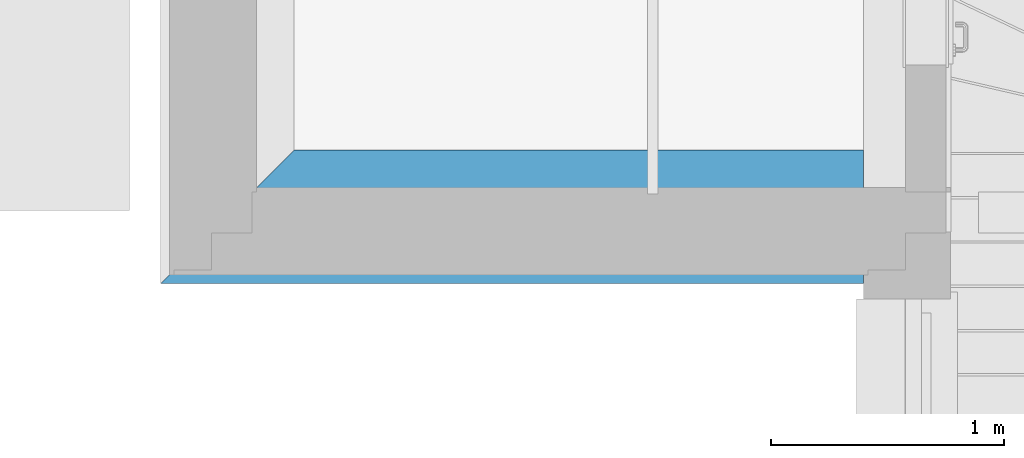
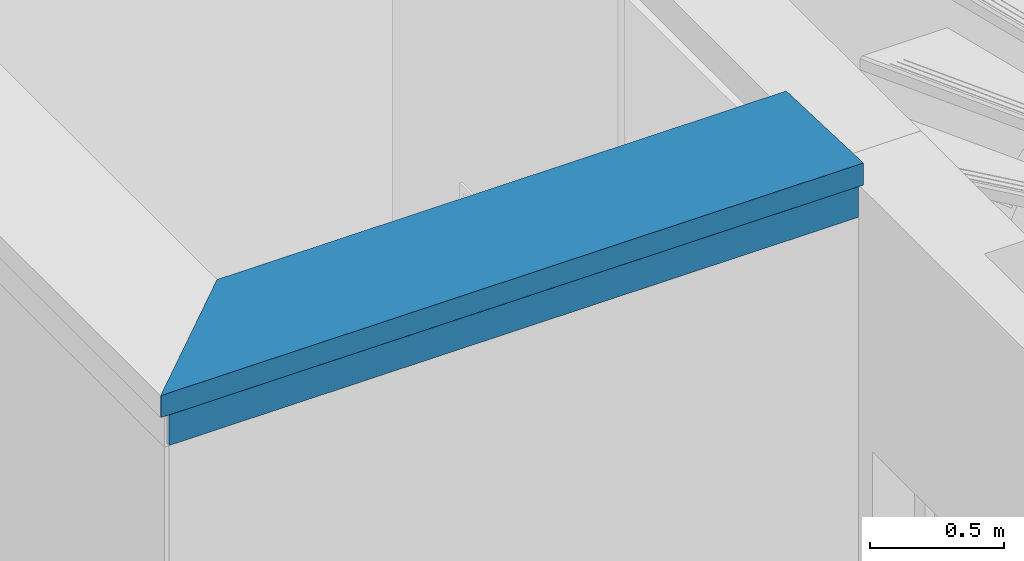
# One storey, part 2 of 28: 1 beam.
"""IFC4 building model written with IfcOpenShell, lengths in metres."""

from ifc_helpers import new_model, entity, si_unit, converted_unit, derived_unit, direction, frame, origin_with_axes, place, context, subcontext, project, spatial, triangles, material, constituent, constituent_set, type_object, element, save


model = new_model("IFC4")

# Units and contexts
model_context = context("Model", 3, precision=1e-05, world=origin_with_axes(), true_north=direction((-0.526213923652, 0.850352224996)))
body_context = subcontext(model_context, "Body", "Model", "MODEL_VIEW")
ifc_project = project(units=[si_unit("LENGTHUNIT", "METRE"), si_unit("AREAUNIT", "SQUARE_METRE"), si_unit("VOLUMEUNIT", "CUBIC_METRE"), converted_unit("PLANEANGLEUNIT", "DEGREE", entity("IfcPlaneAngleMeasure", 0.0174532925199), si_unit("PLANEANGLEUNIT", "RADIAN"), dimensions=[0, 0, 0, 0, 0, 0, 0]), si_unit("SOLIDANGLEUNIT", "STERADIAN"), converted_unit("TIMEUNIT", "Year", entity("IfcTimeMeasure", 31556926.0), si_unit("TIMEUNIT", "SECOND"), dimensions=[0, 0, 1, 0, 0, 0, 0]), si_unit("MASSUNIT", "GRAM", prefix="KILO"), si_unit("THERMODYNAMICTEMPERATUREUNIT", "DEGREE_CELSIUS"), si_unit("LUMINOUSINTENSITYUNIT", "LUMEN"), si_unit("ENERGYUNIT", "JOULE", prefix="MEGA"), derived_unit("THERMALCONDUCTANCEUNIT", [(si_unit("POWERUNIT", "WATT"), 1), (si_unit("LENGTHUNIT", "METRE"), -1), (si_unit("THERMODYNAMICTEMPERATUREUNIT", "KELVIN"), -1)]), derived_unit("SPECIFICHEATCAPACITYUNIT", [(si_unit("ENERGYUNIT", "JOULE"), 1), (si_unit("MASSUNIT", "GRAM", prefix="KILO"), -1), (si_unit("THERMODYNAMICTEMPERATUREUNIT", "KELVIN"), -1)]), derived_unit("MASSDENSITYUNIT", [(si_unit("MASSUNIT", "GRAM", prefix="KILO"), 1), (si_unit("VOLUMEUNIT", "CUBIC_METRE"), -1)])], contexts=[model_context])

# Site, building, storey, space
site_placement = place(None, origin_with_axes())
site = spatial("IfcSite", under=ifc_project, at=site_placement, Name="Gelände", CompositionType="ELEMENT")
building_placement = place(site_placement, origin_with_axes())
building = spatial("IfcBuilding", under=site, at=building_placement, Name="Haus vom Nikolaus", CompositionType="ELEMENT")
storey_placement = place(building_placement, origin_with_axes())
storey = spatial("IfcBuildingStorey", under=building, at=storey_placement, Name="EG", CompositionType="ELEMENT", Elevation=0.0)
space_placement = place(storey_placement, frame((-3.09538684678, 5.36483190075, 0.0), z_axis=(0.0, 0.0, 1.0), x_axis=(1.0, 0.0, 0.0)))
space = spatial("IfcSpace", under=storey, at=space_placement, Name="EG", CompositionType="ELEMENT")

# Beam
ifc_material_1 = material(Name="Verputz, Kalkzement")
ifc_constituent_1 = constituent(ifc_material_1, Name="Component 1")
ifc_material_2 = material(Name="Holz, Bauholz")
ifc_constituent_2 = constituent(ifc_material_2, Name="Component 2")
ifc_material_3 = material(Name="Dämmung, hart XPS")
ifc_constituent_3 = constituent(ifc_material_3, Name="Component 3")
ifc_material_4 = material(Name="Holz, Brettschichtholz")
ifc_constituent_4 = constituent(ifc_material_4, Name="Component 4")
ifc_constituent_5 = constituent(ifc_material_2, Name="Component 5")
ifc_material_5 = material(Name="MW Kalksandstein")
ifc_constituent_6 = constituent(ifc_material_5, Name="Component 6")
ifc_constituent_7 = constituent(ifc_material_3, Name="Component 7")
ifc_material_6 = material(Name="Holz, Spanplatte")
ifc_constituent_8 = constituent(ifc_material_6, Name="Component 8")
ifc_material_7 = material(Name="Metall, Stahl verzinkt")
ifc_constituent_9 = constituent(ifc_material_7, Name="Component 9")
ifc_constituent_set = constituent_set(constituents=[ifc_constituent_1, ifc_constituent_2, ifc_constituent_3, ifc_constituent_4, ifc_constituent_5, ifc_constituent_6, ifc_constituent_7, ifc_constituent_8, ifc_constituent_9], Name="Bauteil - Attika Mauerwerk")
beam_type = type_object("IfcBeamType", Name="Bauteil - Attika Mauerwerk 574 x 270", PredefinedType="NOTDEFINED")
beam_placement = place(space_placement, frame((2.98038443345, 0.180000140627, 3.52000000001), z_axis=(0.0, 0.0, 1.0), x_axis=(-1.0, 0.0, 0.0)))
element("IfcBeam", 1, at=beam_placement, inside=space, type_object=beam_type, material=ifc_constituent_set, Name="Attika-Wand-001", ObjectType="Bauteil - Attika Mauerwerk 574 x 270", context=body_context, shape_type="Tessellation", body=[
    triangles([(2.96038442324, 0.160000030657, 0.23090849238), (2.96038442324, 0.180000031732, 0.228597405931), (2.96038442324, 0.180000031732, 0.23090849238), (2.96038442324, 0.160000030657, 0.228597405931), (2.96040306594, 0.180000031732, 0.24895224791), (0.0, 0.180000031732, 0.300000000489), (2.96040787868, 0.180000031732, 0.251263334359), (2.96038442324, 0.180000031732, 0.238724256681), (2.96038442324, 0.180000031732, 0.239999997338), (0.0, 0.180000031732, 0.08), (2.96038442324, 0.180000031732, 0.08), (2.96042425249, 0.180000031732, 0.259126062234), (2.9605093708, 0.180000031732, 0.300000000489), (2.96038442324, 0.160000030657, 0.238724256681), (0.0, 0.160000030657, 0.239999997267), (0.0, 0.160000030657, 0.08), (2.96038442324, 0.160000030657, 0.239999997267), (2.96038442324, 0.160000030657, 0.08), (2.96040787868, 0.160023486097, 0.251263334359), (2.96040306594, 0.160018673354, 0.24895224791), (0.0, 0.160124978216, 0.300000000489), (2.9605093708, 0.160124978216, 0.300000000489), (2.96042425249, 0.160039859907, 0.259126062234)], [[1, 2, 3], [1, 4, 2], [5, 6, 7], [8, 6, 9], [9, 6, 5], [3, 6, 8], [2, 6, 3], [6, 2, 10], [10, 2, 11], [12, 6, 13], [6, 12, 7], [3, 14, 1], [3, 8, 14], [15, 4, 1], [16, 4, 15], [15, 1, 14], [15, 14, 17], [4, 16, 18], [4, 11, 2], [4, 18, 11], [19, 5, 7], [19, 20, 5], [9, 20, 17], [20, 9, 5], [17, 8, 9], [17, 14, 8], [11, 16, 10], [11, 18, 16], [6, 15, 21], [15, 10, 16], [15, 6, 10], [6, 22, 13], [6, 21, 22], [22, 12, 13], [22, 23, 12], [23, 7, 12], [23, 19, 7], [15, 23, 21], [21, 23, 22], [19, 15, 20], [17, 20, 15], [15, 19, 23]], closed=True),
    triangles([(2.85050936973, 0.0501249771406, 0.315979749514), (2.85050936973, 0.110007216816, 0.321948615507), (2.85050936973, 0.0501249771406, 0.321948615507), (2.85050936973, 0.110039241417, 0.315979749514), (2.9103803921, 0.109995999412, 0.324039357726), (2.85050936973, 0.0501249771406, 0.30784881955), (0.0, 0.0501249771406, 0.321948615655), (0.0, 0.0501249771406, 0.300000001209), (2.85050936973, 0.0501249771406, 0.300000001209), (2.85050936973, 0.110082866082, 0.30784881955), (0.0, 0.109995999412, 0.324039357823), (0.0, 0.110124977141, 0.300000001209), (2.85050936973, 0.110124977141, 0.300000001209)], [[1, 2, 3], [1, 4, 2], [2, 5, 3], [6, 7, 8], [7, 1, 3], [7, 6, 1], [6, 8, 9], [6, 4, 1], [6, 10, 4], [11, 4, 12], [11, 5, 2], [10, 12, 4], [13, 12, 10], [4, 11, 2], [5, 11, 3], [7, 3, 11], [12, 7, 11], [12, 8, 7], [8, 13, 9], [8, 12, 13], [9, 10, 6], [9, 13, 10]], closed=True),
    triangles([(2.80038439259, 0.0, 0.228597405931), (0.0, 0.0, 0.24), (0.0, 0.0, 0.0800000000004), (2.80038439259, 0.0, 0.238724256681), (2.80038439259, 0.0, 0.24), (2.80038439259, 0.0, 0.23090849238), (2.80038439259, 0.0, 0.0799999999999), (2.80038439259, 0.160000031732, 0.24), (2.80038439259, 0.160000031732, 0.238724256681), (0.0, 0.160000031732, 0.24), (0.0, 0.160000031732, 0.0799999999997), (2.80038439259, 0.160000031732, 0.0799999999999), (2.80038439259, 0.160000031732, 0.228597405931), (2.80038439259, 0.160000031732, 0.23090849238)], [[1, 2, 3], [2, 4, 5], [6, 2, 1], [7, 1, 3], [2, 6, 4], [4, 8, 5], [4, 9, 8], [2, 8, 10], [8, 2, 5], [10, 3, 2], [3, 10, 11], [3, 12, 7], [3, 11, 12], [7, 13, 1], [7, 12, 13], [1, 14, 6], [1, 13, 14], [6, 9, 4], [6, 14, 9], [13, 10, 14], [14, 10, 9], [10, 13, 11], [11, 13, 12], [9, 10, 8]], closed=True),
    triangles([(0.0, -0.2, 0.24), (2.60038439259, -0.2, 0.259126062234), (0.0, -0.2, 0.300000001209), (2.60038439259, -0.2, 0.300000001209), (2.60038439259, -0.2, 0.251263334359), (2.60038439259, -0.2, 0.24895224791), (2.60038439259, -0.2, 0.24), (2.60038439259, 0.0501249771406, 0.300000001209), (2.60038439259, 0.160039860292, 0.259126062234), (2.60038439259, 0.110124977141, 0.300000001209), (2.60038439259, -0.18, 0.300000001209), (2.60038439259, -0.12, 0.300000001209), (2.60038439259, 0.160124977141, 0.300000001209), (0.0, -0.18, 0.300000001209), (0.0, 0.160000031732, 0.24), (0.0, 0.0501249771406, 0.300000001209), (0.0, 0.110124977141, 0.300000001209), (0.0, 0.160124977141, 0.300000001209), (0.0, -0.12, 0.300000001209), (2.60038439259, 0.160000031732, 0.24), (2.60038439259, 0.160018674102, 0.24895224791), (2.60038439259, 0.160023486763, 0.251263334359)], [[1, 2, 3], [3, 2, 4], [5, 2, 1], [6, 1, 7], [5, 1, 6], [8, 9, 10], [2, 11, 4], [12, 11, 2], [10, 9, 13], [9, 8, 2], [12, 2, 8], [14, 4, 11], [14, 3, 4], [15, 1, 16], [15, 17, 18], [15, 16, 17], [19, 16, 1], [14, 1, 3], [19, 1, 14], [1, 20, 7], [1, 15, 20], [20, 6, 7], [6, 20, 21], [21, 5, 6], [5, 21, 22], [22, 2, 5], [2, 22, 9], [15, 9, 22], [18, 9, 15], [15, 22, 21], [15, 21, 20], [9, 18, 13], [17, 13, 18], [13, 17, 10], [17, 8, 10], [17, 16, 8], [16, 12, 8], [16, 19, 12], [14, 12, 19], [12, 14, 11]], closed=True),
    triangles([(2.62027416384, -0.180110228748, 0.313880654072), (0.0, -0.18, 0.300000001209), (2.62032206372, -0.180062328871, 0.30784881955), (0.0, -0.180110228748, 0.313880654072), (2.62038439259, -0.18, 0.300000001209), (2.62027416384, -0.12, 0.313880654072), (2.62032206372, -0.12, 0.30784881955), (2.68038439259, -0.12, 0.315979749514), (0.0, -0.12, 0.315979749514), (0.0, -0.12, 0.300000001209), (2.62038439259, -0.12, 0.300000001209)], [[1, 2, 3], [2, 1, 4], [5, 3, 2], [6, 3, 7], [3, 6, 1], [8, 9, 1], [4, 1, 9], [10, 4, 9], [10, 2, 4], [2, 11, 5], [2, 10, 11], [5, 7, 3], [5, 11, 7], [9, 8, 6], [9, 6, 10], [10, 6, 7], [10, 7, 11], [6, 8, 1]], closed=True),
    triangles([(2.60038439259, -0.2, 0.228597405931), (0.0, -0.2, 0.24), (0.0, -0.2, 0.0799999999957), (2.60038439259, -0.2, 0.238724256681), (2.60038439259, -0.2, 0.24), (2.60038439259, -0.2, 0.23090849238), (2.60038439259, -0.2, 0.0800000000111), (2.60038439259, 0.0, 0.24), (2.60038439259, 0.0, 0.238724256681), (0.0, 0.0, 0.24), (0.0, 0.0, 0.0800000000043), (2.60038439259, 0.0, 0.0800000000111), (2.60038439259, 0.0, 0.228597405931), (2.60038439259, 0.0, 0.23090849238)], [[1, 2, 3], [2, 4, 5], [6, 4, 2], [1, 3, 7], [6, 2, 1], [4, 8, 5], [4, 9, 8], [10, 5, 8], [10, 2, 5], [2, 11, 3], [2, 10, 11], [3, 12, 7], [3, 11, 12], [12, 1, 7], [1, 12, 13], [1, 14, 6], [1, 13, 14], [6, 9, 4], [6, 14, 9], [13, 10, 14], [14, 10, 9], [10, 13, 11], [11, 13, 12], [9, 10, 8]], closed=True),
    triangles([(2.49010144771, -0.31028294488, 0.228597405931), (0.0, -0.31028294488, 0.300000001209), (0.0, -0.31028294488, 0.08), (2.49010144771, -0.31028294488, 0.259126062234), (2.49010144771, -0.31028294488, 0.300000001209), (2.49010144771, -0.31028294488, 0.251263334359), (2.49010144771, -0.31028294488, 0.08), (2.49010144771, -0.31028294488, 0.23090849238), (2.49010144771, -0.31028294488, 0.238724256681), (2.49010144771, -0.31028294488, 0.24), (2.49010144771, -0.31028294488, 0.24895224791), (2.49010144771, -0.2, 0.300000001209), (2.49010144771, -0.2, 0.259126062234), (0.0, -0.2, 0.300000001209), (0.0, -0.2, 0.08), (2.49010144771, -0.2, 0.08), (2.49010144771, -0.2, 0.228597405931), (2.49010144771, -0.2, 0.23090849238), (2.49010144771, -0.2, 0.238724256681), (2.49010144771, -0.2, 0.24), (2.49010144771, -0.2, 0.24895224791), (2.49010144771, -0.2, 0.251263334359)], [[1, 2, 3], [2, 4, 5], [6, 4, 2], [1, 3, 7], [8, 2, 1], [9, 2, 8], [10, 2, 9], [11, 2, 10], [6, 2, 11], [4, 12, 5], [4, 13, 12], [2, 12, 14], [12, 2, 5], [15, 2, 14], [2, 15, 3], [3, 16, 7], [3, 15, 16], [7, 17, 1], [7, 16, 17], [1, 18, 8], [1, 17, 18], [8, 19, 9], [8, 18, 19], [9, 20, 10], [9, 19, 20], [10, 21, 11], [10, 20, 21], [11, 22, 6], [11, 21, 22], [6, 13, 4], [6, 22, 13], [21, 14, 22], [22, 14, 13], [20, 14, 21], [19, 14, 20], [18, 14, 19], [17, 14, 18], [14, 17, 15], [15, 17, 16], [13, 14, 12]], closed=True),
    triangles([(2.44604594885, -0.354338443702, 0.327839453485), (2.44604594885, 0.216356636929, 0.327839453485), (3.01602053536, 0.215636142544, 0.348471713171), (2.44604894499, 0.216359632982, 0.327753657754), (0.0, 0.216359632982, 0.327753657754), (0.0, 0.215636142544, 0.348471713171), (0.0, -0.354338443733, 0.327839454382), (2.44617865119, 0.109995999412, 0.324039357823), (2.44617865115, -0.354205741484, 0.324039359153), (0.0, 0.109995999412, 0.324039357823), (0.0, 0.0501249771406, 0.321948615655), (0.0, -0.353640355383, 0.30784881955), (2.44625166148, -0.354132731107, 0.321948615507), (2.44646009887, -0.353924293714, 0.315979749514), (2.44674404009, -0.353640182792, 0.307848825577), (2.44625166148, 0.0501249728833, 0.321948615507), (2.44646009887, -0.12080098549, 0.315979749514)], [[1, 2, 3], [4, 5, 2], [6, 3, 2], [6, 2, 5], [1, 6, 7], [6, 1, 3], [2, 1, 8], [2, 8, 4], [9, 8, 1], [10, 4, 8], [10, 5, 4], [11, 6, 10], [10, 6, 5], [7, 11, 12], [11, 7, 6], [13, 12, 14], [9, 12, 13], [12, 1, 7], [1, 12, 9], [14, 12, 15], [8, 9, 16], [13, 16, 9], [11, 8, 16], [11, 10, 8], [11, 17, 12], [12, 17, 15], [17, 11, 16], [17, 14, 15], [16, 13, 17], [14, 17, 13]], closed=True),
    triangles([(3.01689510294, 0.216510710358, 0.321948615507), (3.01689471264, 0.217859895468, 0.315979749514), (3.01689510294, 0.217859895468, 0.321948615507), (3.01689471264, 0.21651032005, 0.315979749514), (2.97947467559, 0.217859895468, 0.348504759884), (0.0, 0.217859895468, 0.249909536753), (0.0, 0.217859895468, 0.349908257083), (3.01497592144, 0.217859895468, 0.251263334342), (3.0168909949, 0.217859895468, 0.259126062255), (3.01689048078, 0.217859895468, 0.251263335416), (3.01632972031, 0.217859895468, 0.249909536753), (3.01689366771, 0.217859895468, 0.300000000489), (3.01824428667, 0.217859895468, 0.349908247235), (3.01689523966, 0.217859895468, 0.324039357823), (3.0168968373, 0.217859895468, 0.348471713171), (3.01689683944, 0.217859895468, 0.348504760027), (3.01689548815, 0.217859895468, 0.327839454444), (3.01689418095, 0.217859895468, 0.30784881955), (3.01689523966, 0.216510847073, 0.324039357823), (3.01497592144, 0.216506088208, 0.251263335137), (2.97947467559, 0.216512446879, 0.348504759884), (0.0, 0.216506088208, 0.251263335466), (3.01689548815, 0.216511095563, 0.327839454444), (3.0168968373, 0.216512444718, 0.348471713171), (3.01689683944, 0.216512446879, 0.348504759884), (0.0, 0.216512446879, 0.348504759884), (3.0168909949, 0.216506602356, 0.259126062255), (3.01689366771, 0.216509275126, 0.300000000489), (3.01689048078, 0.216506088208, 0.251263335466), (3.01689418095, 0.216509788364, 0.30784881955), (3.01728700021, 0.216902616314, 0.248952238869), (3.01497592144, 0.2145915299, 0.251263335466), (0.0, 0.216902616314, 0.248952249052), (0.0, -0.355692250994, 0.329145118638), (0.0, -0.354338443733, 0.230908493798), (0.0, -0.355692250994, 0.229554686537), (0.0, -0.345518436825, 0.237813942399), (0.0, -0.35473497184, 0.228597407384), (0.0, 0.207733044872, 0.258121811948), (0.0, 0.215636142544, 0.348471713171), (0.0, -0.354338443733, 0.327839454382), (0.0, 0.208643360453, 0.259126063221), (0.0, -0.346522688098, 0.238724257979), (2.44469214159, -0.355692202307, 0.329145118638), (2.9785618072, 0.178177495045, 0.348471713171), (2.97947467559, 0.179090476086, 0.348504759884), (2.9785618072, 0.215636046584, 0.348471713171), (3.00902775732, 0.208643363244, 0.259126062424), (3.00811743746, 0.209647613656, 0.258121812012), (3.00811743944, 0.207733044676, 0.258121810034), (2.45295138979, -0.345518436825, 0.237813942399), (2.4538617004, -0.346522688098, 0.238724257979), (2.44604594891, -0.352423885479, 0.230908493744), (2.44469214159, -0.352423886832, 0.230908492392), (2.44469214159, -0.353777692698, 0.229554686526), (2.44564942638, -0.35473497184, 0.228597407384), (2.44469214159, -0.355692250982, 0.229554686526), (2.44469214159, -0.355692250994, 0.24), (2.44469214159, -0.355692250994, 0.238724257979), (2.44469888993, -0.355692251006, 0.230908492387), (2.44469214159, -0.355692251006, 0.248952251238), (2.44469214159, -0.355692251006, 0.251263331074), (2.44469214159, -0.355692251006, 0.259126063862), (2.44469214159, -0.355692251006, 0.300000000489), (2.44469214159, -0.355692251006, 0.30784881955), (2.44469214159, -0.355692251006, 0.315979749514), (2.44469214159, -0.355692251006, 0.321948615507), (2.44469214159, -0.355692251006, 0.324039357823), (2.44469214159, -0.355692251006, 0.327839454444), (2.44469214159, -0.31826883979, 0.329145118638), (2.44469214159, -0.354338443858, 0.327839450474), (2.44469214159, -0.354338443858, 0.30784881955), (2.44469214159, -0.354338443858, 0.315979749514), (2.44469214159, -0.354338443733, 0.238724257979), (2.44469888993, -0.354338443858, 0.230908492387), (2.44469214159, -0.354338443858, 0.321948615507), (2.44469214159, -0.354338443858, 0.324039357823), (2.44469214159, -0.354338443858, 0.300000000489), (2.44469214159, -0.354338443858, 0.259126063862), (2.44469214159, -0.354338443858, 0.251263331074), (2.44469214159, -0.354338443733, 0.24), (2.44469214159, -0.354338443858, 0.248952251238), (2.44604594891, -0.354338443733, 0.230908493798)], [[1, 2, 3], [1, 4, 2], [5, 6, 7], [8, 9, 10], [6, 8, 11], [5, 9, 8], [12, 9, 5], [6, 5, 8], [13, 5, 7], [3, 5, 14], [15, 5, 16], [17, 5, 15], [14, 5, 17], [2, 5, 3], [18, 5, 2], [12, 5, 18], [19, 3, 14], [19, 1, 3], [20, 21, 22], [21, 1, 19], [21, 4, 1], [21, 19, 23], [21, 23, 24], [21, 24, 25], [22, 21, 26], [27, 21, 20], [28, 21, 27], [29, 27, 20], [30, 4, 21], [30, 21, 28], [4, 18, 2], [4, 30, 18], [27, 10, 9], [27, 29, 10], [29, 8, 10], [29, 20, 8], [20, 31, 11], [31, 20, 32], [20, 11, 8], [31, 33, 11], [6, 11, 33], [6, 26, 7], [34, 35, 36], [35, 37, 38], [22, 33, 39], [40, 7, 26], [35, 34, 41], [26, 6, 22], [33, 22, 6], [42, 22, 39], [34, 40, 41], [34, 7, 40], [37, 35, 43], [36, 35, 38], [44, 7, 34], [45, 7, 44], [46, 7, 45], [7, 46, 13], [21, 5, 13], [46, 21, 13], [21, 16, 5], [16, 21, 25], [25, 15, 16], [25, 24, 15], [24, 17, 15], [24, 23, 17], [23, 14, 17], [23, 19, 14], [30, 12, 18], [30, 28, 12], [28, 9, 12], [28, 27, 9], [26, 47, 40], [47, 26, 21], [42, 48, 49], [20, 22, 49], [42, 49, 22], [20, 49, 32], [50, 32, 49], [33, 50, 39], [50, 33, 32], [32, 33, 31], [43, 51, 37], [51, 43, 52], [53, 54, 51], [37, 54, 38], [38, 54, 55], [38, 55, 56], [51, 54, 37], [38, 57, 36], [57, 38, 56], [58, 36, 59], [59, 57, 60], [61, 36, 58], [62, 36, 61], [63, 36, 62], [36, 63, 34], [34, 63, 64], [34, 64, 65], [34, 65, 66], [34, 66, 67], [34, 67, 68], [34, 68, 69], [34, 69, 44], [59, 36, 57], [42, 50, 48], [50, 42, 39], [41, 70, 71], [70, 40, 47], [70, 41, 40], [72, 41, 73], [35, 74, 75], [76, 41, 77], [71, 77, 41], [73, 41, 76], [78, 41, 72], [41, 79, 35], [79, 41, 78], [80, 35, 79], [81, 74, 35], [82, 35, 80], [81, 35, 82], [52, 43, 75], [52, 75, 83], [35, 75, 43], [70, 45, 44], [45, 70, 47], [21, 46, 47], [45, 47, 46], [48, 50, 49], [52, 53, 51], [53, 52, 83], [57, 75, 60], [75, 55, 54], [75, 57, 55], [57, 56, 55], [75, 53, 83], [75, 54, 53], [59, 75, 74], [59, 60, 75], [58, 74, 81], [58, 59, 74], [58, 82, 61], [82, 58, 81], [62, 82, 80], [62, 61, 82], [79, 62, 80], [79, 63, 62], [64, 79, 78], [64, 63, 79], [65, 78, 72], [65, 64, 78], [73, 65, 72], [73, 66, 65], [67, 73, 76], [67, 66, 73], [77, 67, 76], [77, 68, 67], [68, 71, 69], [71, 68, 77], [71, 44, 69], [44, 71, 70]], closed=True),
])

save(model, "model.ifc")
